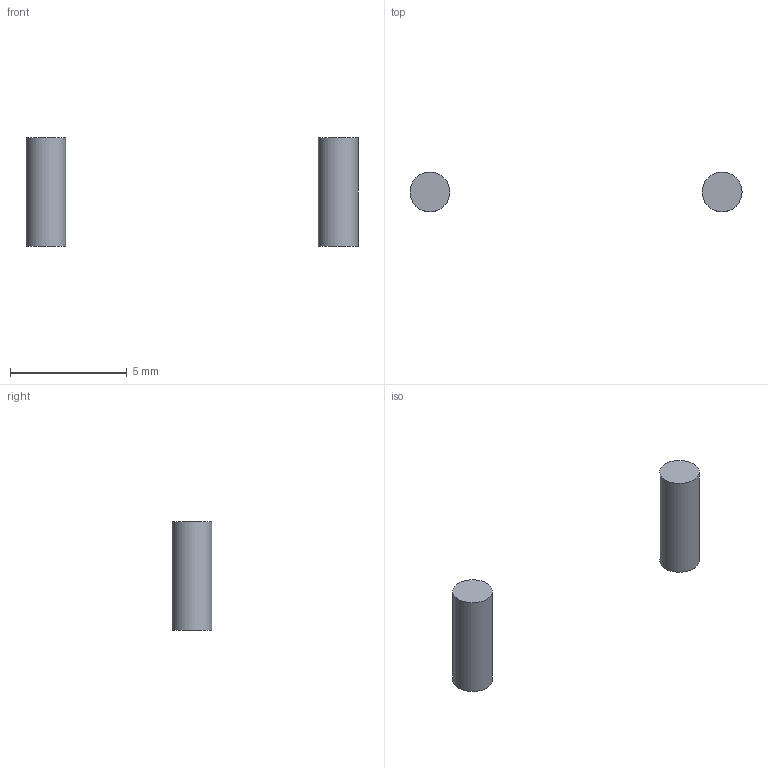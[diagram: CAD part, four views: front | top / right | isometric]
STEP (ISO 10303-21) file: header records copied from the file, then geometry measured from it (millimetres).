
FILE_DESCRIPTION(('Open CASCADE Model'),'2;1');
FILE_NAME('CUT_P01_ADAPTER_REAR_ACCESS_M2_PILOTS_FINAL', '2026-09-15T15:05:35',('Author'),('Open CASCADE'), 'Open CASCADE STEP processor 7.9','build123d','Unknown');
FILE_SCHEMA(('AUTOMOTIVE_DESIGN { 1 0 10303 214 1 1 1 1 }'));
Length unit declared in the file: millimetre
Products named in the file (1): CUT_P01_ADAPTER_REAR_ACCESS_M2_PILOTS_FINAL
Bounding box: 14.2 x 1.7 x 4.65 mm (x, y, z)
Volume: 21.1 mm3; surface area: 58.7 mm2
Topology: 2 solids, 2 shells, 6 faces, 6 edges, 4 vertices
Faces by surface type: plane 4, cylinder 2
Full cylindrical faces by diameter (mm): 1.7 x2
Entity records: 200 total; most frequent: DIRECTION 36, CARTESIAN_POINT 29, ORIENTED_EDGE 12, PCURVE 12, DEFINITIONAL_REPRESENTATION 12, AXIS2_PLACEMENT_3D 11, LINE 10, VECTOR 10
